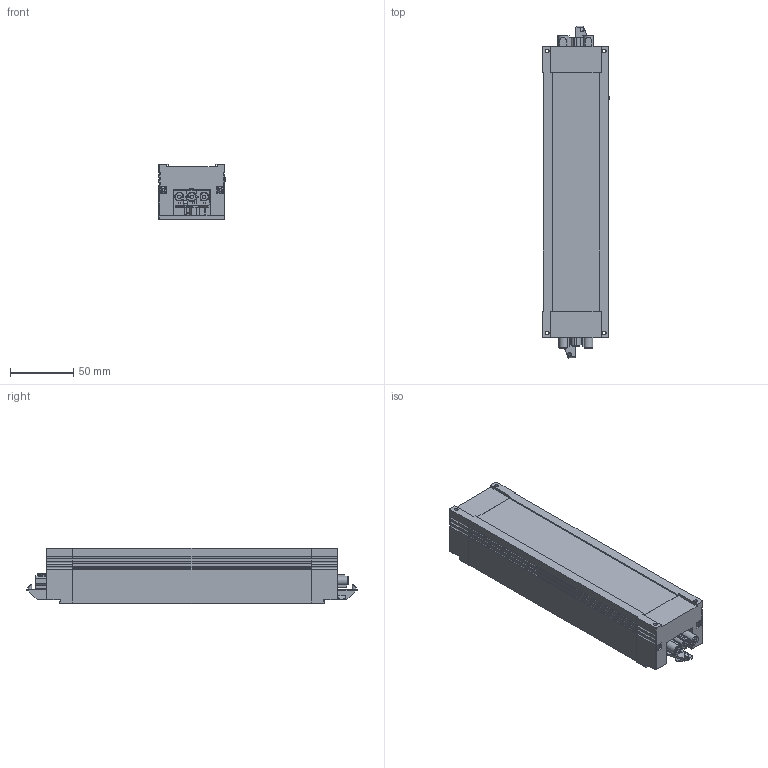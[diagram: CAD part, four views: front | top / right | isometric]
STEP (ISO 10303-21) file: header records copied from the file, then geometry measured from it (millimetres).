
FILE_DESCRIPTION(/* description */ (''),/* implementation_level */ '2;1');
FILE_NAME(/* name */ 'BG_906.18815.stp',/* time_stamp */ '2024-09-20T11:51:49+03:00',/* author */ ('silviu.calugar'),/* organization */ (''),/* preprocessor_version */ 'ST-DEVELOPER v20',/* originating_system */ 'Autodesk Inventor 2025',/* authorisation */ '');
FILE_SCHEMA (('AUTOMOTIVE_DESIGN { 1 0 10303 214 3 1 1 }'));
Products named in the file (1): BG_906.18815
Bounding box: 52.82 x 261.5 x 43.8 mm (x, y, z)
Volume: 273383 mm3; surface area: 189142.4 mm2
Topology: 1 solids, 48 shells, 6291 faces, 17297 edges, 11082 vertices
Faces by surface type: plane 3859, cylinder 1256, bspline 840, torus 213, cone 76, sphere 47
Full cylindrical faces by diameter (mm): 1 x6, 2.1 x2, 2.2 x1, 2.257 x3, 2.43 x3, 2.5 x3, 2.8 x3, 2.9 x4, 2.907 x1, 3 x16, 3.1 x3, 3.2 x12, 3.3 x2, 3.5 x4, 3.6 x3, 4 x6, 4.1 x3, 4.166 x3, 4.2 x3, 4.3 x1, 4.34 x3, 5.5 x6, 6 x4, 6.3 x2, 8.5 x6, 39 x3
Entity records: 222553 total; most frequent: CARTESIAN_POINT 60088, ORIENTED_EDGE 34534, DIRECTION 29212, EDGE_CURVE 17267, LINE 12140, VECTOR 12140, VERTEX_POINT 11081, AXIS2_PLACEMENT_3D 8536
